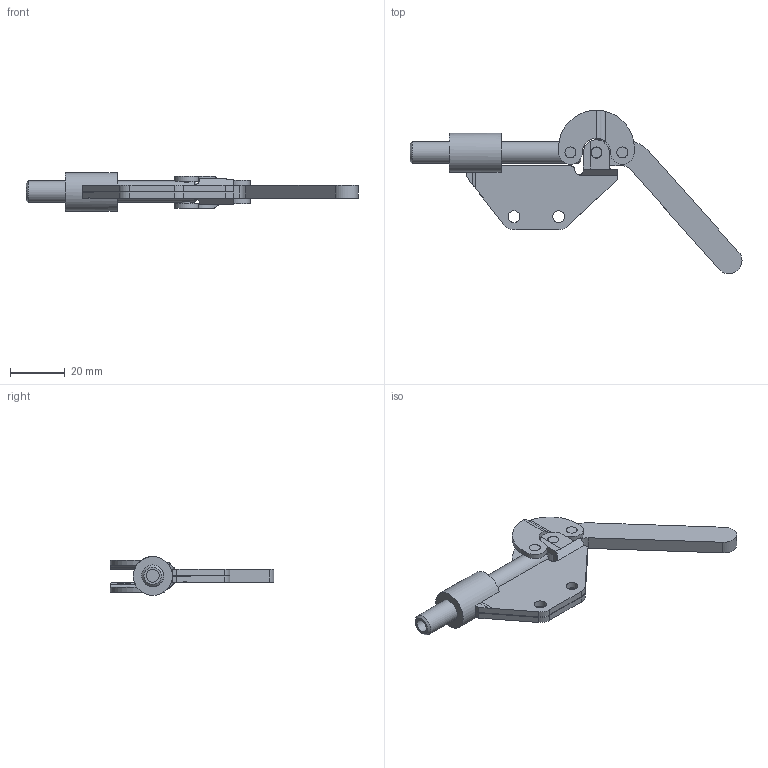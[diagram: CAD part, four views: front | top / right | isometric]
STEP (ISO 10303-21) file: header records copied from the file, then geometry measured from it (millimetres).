
FILE_DESCRIPTION((' '),'2;1');
FILE_NAME('C:\Users\Nick\Desktop\PHL-251\3D\PHL-251 Open.stp','2015-05-29T12:39:15',(' '),(' '),' ','ACIS',' ');
FILE_SCHEMA(('CONFIG_CONTROL_DESIGN'));
Length unit declared in the file: inch
Products named in the file (10): C:\Users\Nick\Desktop\PHL-251\3D\PHL-251 Open.stp; Body1; Body2; Body3; Body4; Body5; Body6; Body7; Body8; Body9
Assembly tree (9 placements, depth 2):
  C:\Users\Nick\Desktop\PHL-251\3D\PHL-251 Open.stp
    Body1
    Body2
    Body3
    Body4
    Body5
    Body6
    Body7
    Body8
    Body9
Bounding box: 121.8 x 59.99 x 14.29 mm (x, y, z)
Volume: 14267.5 mm3; surface area: 12835.3 mm2
Topology: 8 solids, 8 shells, 197 faces, 536 edges, 355 vertices
Faces by surface type: plane 92, cylinder 54, bspline 49, cone 2
Full cylindrical faces by diameter (mm): 3.962 x1, 3.969 x1, 4.013 x5, 4.366 x4, 4.763 x1, 7.938 x1, 7.976 x1, 14.288 x1
Entity records: 7930 total; most frequent: CARTESIAN_POINT 1675, ORIENTED_EDGE 1018, DIRECTION 974, EDGE_CURVE 509, VERTEX_POINT 349, VECTOR 342, LINE 342, AXIS2_PLACEMENT_3D 316
